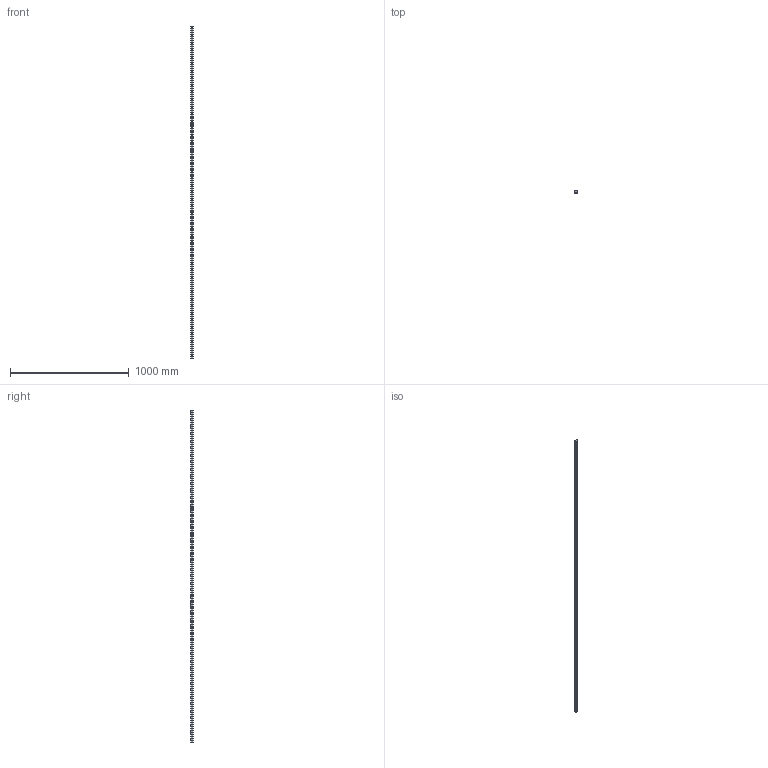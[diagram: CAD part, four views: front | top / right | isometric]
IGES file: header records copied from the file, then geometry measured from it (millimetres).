
Start section: SolidWorks IGES file using analytic representation for surfaces
Global section: file name: C:\Users\IanO\Desktop\L1016_v2\L1016.BL25_v2\L1016.BL25_v2_20160611_IGES\L1016.BL25-2800.igs; native system: SolidWorks 2017; preprocessor: SolidWorks 2017; author: IanO; date: 190612.131250; units: millimetre
Bounding box: 23 x 19.2 x 2800 mm (x, y, z)
Surface area: 264975.2 mm2 (no closed solid volume)
Topology: 0 solids, 0 shells, 261 faces, 6936 edges, 6936 vertices
Faces by surface type: revolution 192, bspline 69
